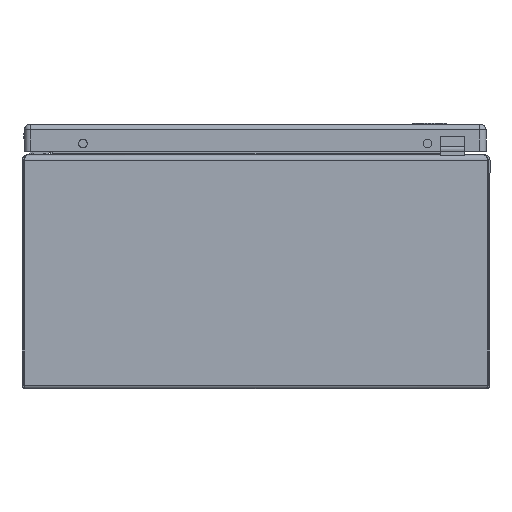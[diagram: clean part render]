
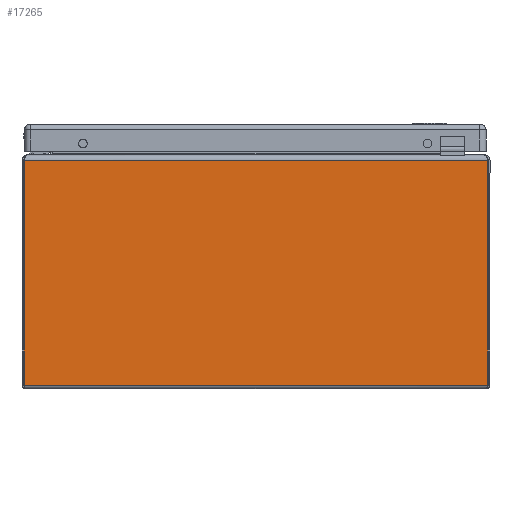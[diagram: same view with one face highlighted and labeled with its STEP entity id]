
A CAD part, front view. The second image highlights one B-rep face of the part: STEP entity #17265.
In plain terms, the highlighted planar face has unit normal (0, -1, 0).
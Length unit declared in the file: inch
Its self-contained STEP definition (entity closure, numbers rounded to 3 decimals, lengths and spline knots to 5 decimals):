
#3966 = FACE_OUTER_BOUND ( 'NONE', #37178, .T. ) ;
#8921 = DIRECTION ( 'NONE',  ( 1., 0., 0. ) ) ;
#8922 = CARTESIAN_POINT ( 'NONE',  ( -86., -8., 0.097 ) ) ;
#8931 = DIRECTION ( 'NONE',  ( 1., 0., 0. ) ) ;
#8932 = CARTESIAN_POINT ( 'NONE',  ( -86., -8., 5.859 ) ) ;
#8959 = DIRECTION ( 'NONE',  ( 0., 0., 1. ) ) ;
#8960 = CARTESIAN_POINT ( 'NONE',  ( 5.94693, -8., 5.859 ) ) ;
#9096 = DIRECTION ( 'NONE',  ( 0., 0., -1. ) ) ;
#9097 = CARTESIAN_POINT ( 'NONE',  ( -5.94693, -8., 5.859 ) ) ;
#11465 = ORIENTED_EDGE ( 'NONE', *, *, #27069, .T. ) ;
#11466 = ORIENTED_EDGE ( 'NONE', *, *, #27079, .F. ) ;
#11467 = ORIENTED_EDGE ( 'NONE', *, *, #27026, .T. ) ;
#11468 = ORIENTED_EDGE ( 'NONE', *, *, #27083, .T. ) ;
#12515 = CARTESIAN_POINT ( 'NONE',  ( 5.94693, -8., 0.097 ) ) ;
#12530 = CARTESIAN_POINT ( 'NONE',  ( 5.94693, -8., 5.859 ) ) ;
#12590 = CARTESIAN_POINT ( 'NONE',  ( -5.94693, -8., 0.097 ) ) ;
#12637 = CARTESIAN_POINT ( 'NONE',  ( -5.94693, -8., 5.859 ) ) ;
#17265 = ADVANCED_FACE ( 'NONE', ( #3966 ), #24378, .T. ) ;
#20258 = VERTEX_POINT ( 'NONE', #12637 ) ;
#20340 = VERTEX_POINT ( 'NONE', #12590 ) ;
#20453 = VERTEX_POINT ( 'NONE', #12530 ) ;
#20488 = VERTEX_POINT ( 'NONE', #12515 ) ;
#24075 = VECTOR ( 'NONE', #9096, 39.37008 ) ;
#24079 = LINE ( 'NONE', #9097, #24075 ) ;
#24140 = LINE ( 'NONE', #8960, #24144 ) ;
#24144 = VECTOR ( 'NONE', #8959, 39.37008 ) ;
#24161 = LINE ( 'NONE', #8932, #24162 ) ;
#24162 = VECTOR ( 'NONE', #8931, 39.37008 ) ;
#24168 = LINE ( 'NONE', #8922, #24169 ) ;
#24169 = VECTOR ( 'NONE', #8921, 39.37008 ) ;
#24378 = PLANE ( 'NONE',  #45605 ) ;
#24400 = DIRECTION ( 'NONE',  ( 0., -1., 0. ) ) ;
#24525 = DIRECTION ( 'NONE',  ( 0., 0., -1. ) ) ;
#24555 = CARTESIAN_POINT ( 'NONE',  ( -86., -8., 5.859 ) ) ;
#27026 = EDGE_CURVE ( 'NONE', #20258, #20340, #24079, .T. ) ;
#27069 = EDGE_CURVE ( 'NONE', #20488, #20453, #24140, .T. ) ;
#27079 = EDGE_CURVE ( 'NONE', #20258, #20453, #24161, .T. ) ;
#27083 = EDGE_CURVE ( 'NONE', #20340, #20488, #24168, .T. ) ;
#37178 = EDGE_LOOP ( 'NONE', ( #11465, #11466, #11467, #11468 ) ) ;
#45605 = AXIS2_PLACEMENT_3D ( 'NONE', #24555, #24400, #24525 ) ;
